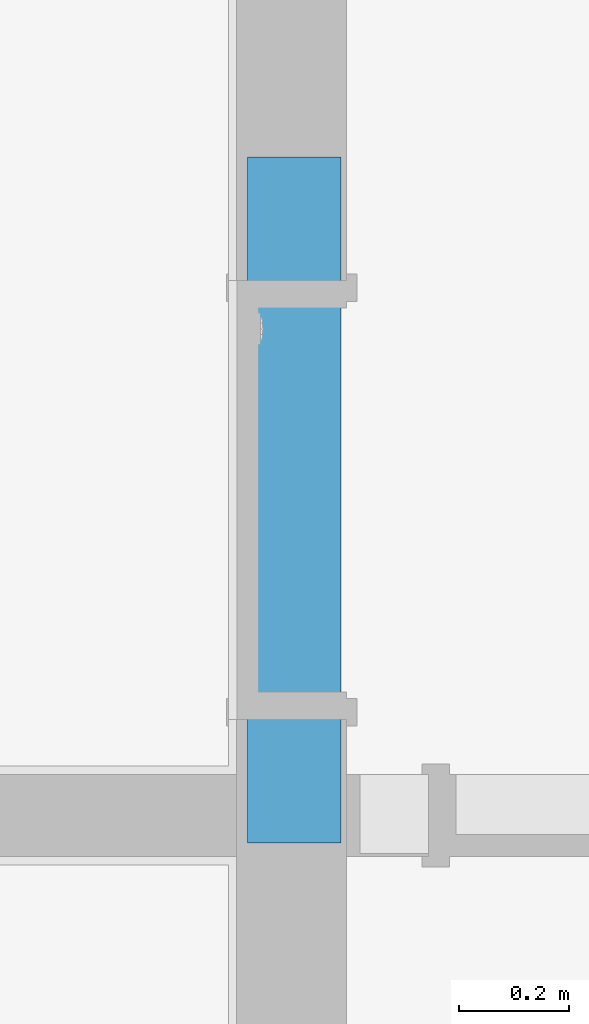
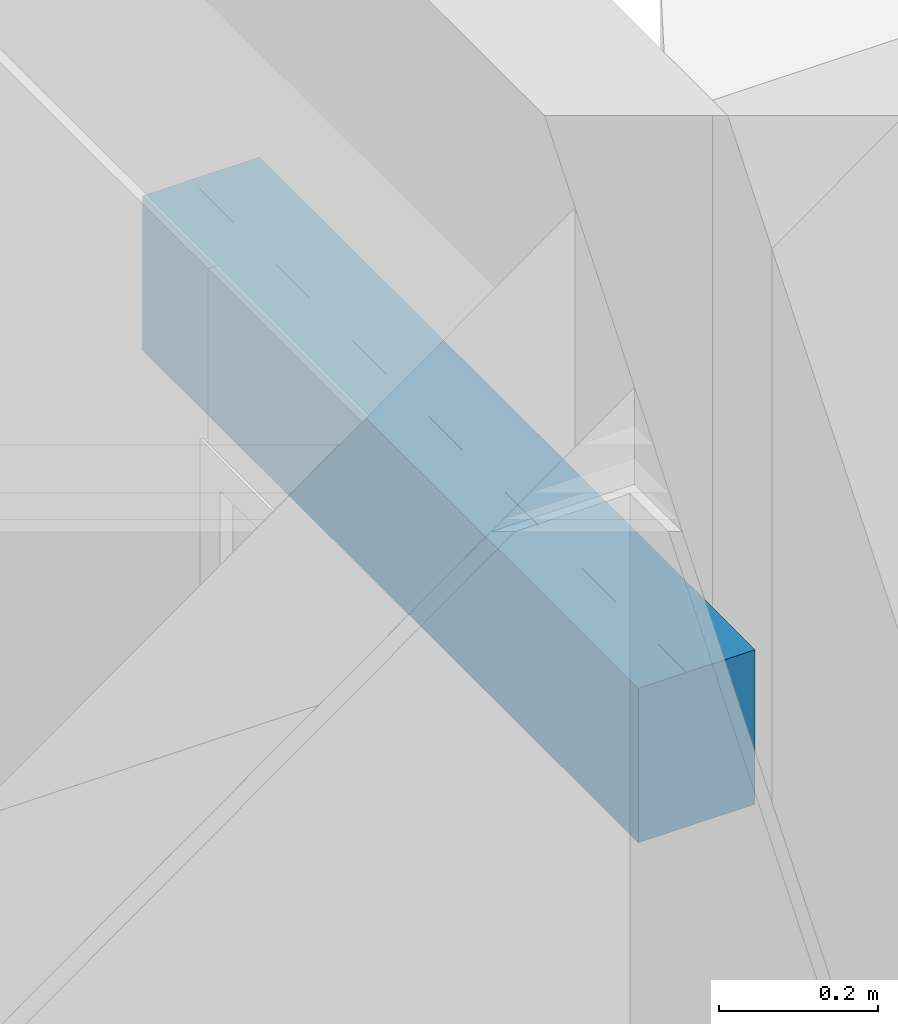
# One storey, part 3 of 21: 1 beam.
"""IFC4 building model written with IfcOpenShell, lengths in millimetres."""

from ifc_helpers import new_model, entity, si_unit, converted_unit, derived_unit, direction, frame, origin_with_axes, place, context, subcontext, project, spatial, polygons, source, transform, mapped, type_object, element, save


model = new_model("IFC4")

# Units and contexts
model_context = context("Model", 3, precision=0.01, world=origin_with_axes(), true_north=direction((0.0, 1.0)))
body_context = subcontext(model_context, "Body", "Model", "MODEL_VIEW")
ifc_project = project(units=[si_unit("LENGTHUNIT", "METRE", prefix="MILLI"), si_unit("AREAUNIT", "SQUARE_METRE"), si_unit("VOLUMEUNIT", "CUBIC_METRE"), converted_unit("PLANEANGLEUNIT", "DEGREE", entity("IfcPlaneAngleMeasure", 0.0174532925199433), si_unit("PLANEANGLEUNIT", "RADIAN"), dimensions=[0, 0, 0, 0, 0, 0, 0]), converted_unit("TIMEUNIT", "Year", entity("IfcTimeMeasure", 31557600.0), si_unit("TIMEUNIT", "SECOND"), dimensions=[0, 0, 1, 0, 0, 0, 0]), si_unit("MASSUNIT", "GRAM", prefix="KILO"), si_unit("THERMODYNAMICTEMPERATUREUNIT", "DEGREE_CELSIUS"), si_unit("LUMINOUSINTENSITYUNIT", "LUMEN"), si_unit("ENERGYUNIT", "JOULE", prefix="MEGA"), derived_unit("THERMALCONDUCTANCEUNIT", [(si_unit("POWERUNIT", "WATT"), 1), (si_unit("LENGTHUNIT", "METRE"), -1), (si_unit("THERMODYNAMICTEMPERATUREUNIT", "KELVIN"), -1)]), derived_unit("SPECIFICHEATCAPACITYUNIT", [(si_unit("ENERGYUNIT", "JOULE"), 1), (si_unit("MASSUNIT", "GRAM", prefix="KILO"), -1), (si_unit("THERMODYNAMICTEMPERATUREUNIT", "KELVIN"), -1)]), derived_unit("MASSDENSITYUNIT", [(si_unit("MASSUNIT", "GRAM", prefix="KILO"), 1), (si_unit("VOLUMEUNIT", "CUBIC_METRE"), -1)])], contexts=[model_context])

# Site, building, storey
site_placement = place(None, origin_with_axes())
site = spatial("IfcSite", under=ifc_project, at=site_placement, Name="Exteriér", CompositionType="ELEMENT")
building_placement = place(site_placement, origin_with_axes())
building = spatial("IfcBuilding", under=site, at=building_placement, Name="Univerzitní lezecké centrum", CompositionType="ELEMENT")
storey_placement = place(building_placement, frame((0.0, 0.0, -3350.0), z_axis=(0.0, 0.0, 1.0), x_axis=(1.0, 0.0, 0.0)))
storey = spatial("IfcBuildingStorey", under=building, at=storey_placement, Name="1.PP", CompositionType="ELEMENT", Elevation=-3350.0)

# Beam
beam_type = type_object("IfcBeamType", Name="PTH Překlad KP7", PredefinedType="BEAM")
shared_shape = source(origin_with_axes(), body_context, "Body", "Tessellation", [
    polygons([(-625.0, 80.0, 0.0), (625.0, 80.0, 0.0), (625.0, 10.00000107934, 0.0), (-625.0, 10.00000107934, 0.0), (-625.0, 79.99999845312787, 17.00000071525), (625.0, 79.99999845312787, 17.00000071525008), (625.0, 30.29999809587, 16.99999709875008), (625.0, 30.29999809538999, 220.9999513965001), (625.0, 79.99999845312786, 220.9999992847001), (625.0, 79.99998239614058, 237.6644796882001), (625.0, 10.00000107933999, 237.6644745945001), (-625.0, 10.00000107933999, 237.6644745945), (-625.0, 79.99998239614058, 237.6644796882), (-625.0, 79.99999845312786, 220.9999992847), (-625.0, 30.29999809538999, 220.9999513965), (-625.0, 30.29999809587, 16.99999709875)], [[[1, 2, 3, 4]], [[5, 6, 2, 1]], [[2, 6, 7, 8, 9, 10, 11, 3]], [[4, 3, 11, 12]], [[1, 4, 12, 13, 14, 15, 16, 5]], [[16, 7, 6, 5]], [[15, 8, 7, 16]], [[14, 9, 8, 15]], [[13, 10, 9, 14]], [[12, 11, 10, 13]]], closed=True),
    polygons([(-625.0, 79.99999845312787, 17.00000071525), (625.0, 79.99999845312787, 17.00000071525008), (625.0, 30.29999809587, 16.99999709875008), (-625.0, 30.29999809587, 16.99999709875), (-625.0, 79.99999845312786, 220.9999992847), (625.0, 79.99999845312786, 220.9999992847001), (625.0, 30.29999809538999, 220.9999513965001), (625.0, 59.29999711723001, 38.99999933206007), (625.0, 59.05527973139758, 37.45491456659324), (625.0, 58.34508221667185, 36.06107346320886), (625.0, 57.23892365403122, 34.95491490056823), (625.0, 55.84508255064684, 34.24471738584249), (625.0, 54.29999778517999, 34.00000000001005), (625.0, 52.75491301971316, 34.24471738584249), (625.0, 51.36107191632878, 34.95491490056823), (625.0, 50.25491335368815, 36.06107346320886), (625.0, 49.54471583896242, 37.45491456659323), (625.0, 49.29999845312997, 38.99999933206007), (625.0, 49.54471583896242, 40.54508409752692), (625.0, 50.25491335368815, 41.93892520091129), (625.0, 51.36107191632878, 43.04508376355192), (625.0, 52.75491301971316, 43.75528127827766), (625.0, 54.29999778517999, 43.99999866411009), (625.0, 55.84508255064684, 43.75528127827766), (625.0, 57.23892365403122, 43.04508376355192), (625.0, 58.34508221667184, 41.93892520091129), (625.0, 59.05527973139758, 40.54508409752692), (625.0, 57.29984198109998, 201.0000022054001), (625.0, 57.10406902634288, 199.7639342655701), (625.0, 56.53591188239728, 198.6488609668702), (625.0, 55.65098572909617, 197.7639334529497), (625.0, 54.53591330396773, 197.1957745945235), (625.0, 53.29984566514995, 196.9999997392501), (625.0, 52.06377772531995, 197.1957726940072), (625.0, 50.94870442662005, 197.7639298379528), (625.0, 50.0637769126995, 198.648855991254), (625.0, 49.49561805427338, 199.7639284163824), (625.0, 49.29984319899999, 200.9999960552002), (625.0, 49.4956161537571, 202.2360639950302), (625.0, 50.0637732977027, 203.3511372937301), (625.0, 50.9486994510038, 204.2360648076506), (625.0, 52.06377187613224, 204.8042236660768), (625.0, 53.29983951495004, 204.9999985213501), (625.0, 54.53590745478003, 204.804225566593), (625.0, 55.65098075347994, 204.2360684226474), (625.0, 56.53590826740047, 203.3511422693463), (625.0, 57.1040671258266, 202.2360698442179), (-625.0, 30.29999809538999, 220.9999513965), (-625.0, 59.29999711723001, 38.99999933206), (-625.0, 59.05527973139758, 40.54508409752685), (-625.0, 58.34508221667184, 41.93892520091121), (-625.0, 57.23892365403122, 43.04508376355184), (-625.0, 55.84508255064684, 43.75528127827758), (-625.0, 54.29999778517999, 43.99999866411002), (-625.0, 52.75491301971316, 43.75528127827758), (-625.0, 51.36107191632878, 43.04508376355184), (-625.0, 50.25491335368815, 41.93892520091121), (-625.0, 49.54471583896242, 40.54508409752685), (-625.0, 49.29999845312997, 38.99999933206), (-625.0, 49.54471583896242, 37.45491456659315), (-625.0, 50.25491335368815, 36.06107346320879), (-625.0, 51.36107191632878, 34.95491490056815), (-625.0, 52.75491301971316, 34.24471738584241), (-625.0, 54.29999778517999, 34.00000000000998), (-625.0, 55.84508255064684, 34.24471738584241), (-625.0, 57.23892365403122, 34.95491490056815), (-625.0, 58.34508221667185, 36.06107346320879), (-625.0, 59.05527973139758, 37.45491456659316), (-625.0, 57.29984198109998, 201.0000022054), (-625.0, 57.1040671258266, 202.2360698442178), (-625.0, 56.53590826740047, 203.3511422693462), (-625.0, 55.65098075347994, 204.2360684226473), (-625.0, 54.53590745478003, 204.8042255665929), (-625.0, 53.29983951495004, 204.9999985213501), (-625.0, 52.06377187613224, 204.8042236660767), (-625.0, 50.9486994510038, 204.2360648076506), (-625.0, 50.0637732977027, 203.35113729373), (-625.0, 49.4956161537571, 202.2360639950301), (-625.0, 49.29984319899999, 200.9999960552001), (-625.0, 49.49561805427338, 199.7639284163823), (-625.0, 50.0637769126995, 198.6488559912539), (-625.0, 50.94870442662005, 197.7639298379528), (-625.0, 52.06377772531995, 197.1957726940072), (-625.0, 53.29984566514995, 196.9999997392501), (-625.0, 54.53591330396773, 197.1957745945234), (-625.0, 55.65098572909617, 197.7639334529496), (-625.0, 56.53591188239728, 198.6488609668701), (-625.0, 57.10406902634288, 199.76393426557)], [[[1, 2, 3, 4]], [[5, 6, 2, 1]], [[2, 6, 7, 3], [8, 9, 10, 11, 12, 13, 14, 15, 16, 17, 18, 19, 20, 21, 22, 23, 24, 25, 26, 27], [28, 29, 30, 31, 32, 33, 34, 35, 36, 37, 38, 39, 40, 41, 42, 43, 44, 45, 46, 47]], [[4, 3, 7, 48]], [[1, 4, 48, 5], [49, 50, 51, 52, 53, 54, 55, 56, 57, 58, 59, 60, 61, 62, 63, 64, 65, 66, 67, 68], [69, 70, 71, 72, 73, 74, 75, 76, 77, 78, 79, 80, 81, 82, 83, 84, 85, 86, 87, 88]], [[48, 7, 6, 5]], [[68, 9, 8, 49]], [[67, 10, 9, 68]], [[66, 11, 10, 67]], [[65, 12, 11, 66]], [[64, 13, 12, 65]], [[63, 14, 13, 64]], [[62, 15, 14, 63]], [[61, 16, 15, 62]], [[60, 17, 16, 61]], [[59, 18, 17, 60]], [[58, 19, 18, 59]], [[57, 20, 19, 58]], [[56, 21, 20, 57]], [[55, 22, 21, 56]], [[54, 23, 22, 55]], [[53, 24, 23, 54]], [[52, 25, 24, 53]], [[51, 26, 25, 52]], [[50, 27, 26, 51]], [[49, 8, 27, 50]], [[88, 29, 28, 69]], [[87, 30, 29, 88]], [[86, 31, 30, 87]], [[85, 32, 31, 86]], [[84, 33, 32, 85]], [[83, 34, 33, 84]], [[82, 35, 34, 83]], [[81, 36, 35, 82]], [[80, 37, 36, 81]], [[79, 38, 37, 80]], [[78, 39, 38, 79]], [[77, 40, 39, 78]], [[76, 41, 40, 77]], [[75, 42, 41, 76]], [[74, 43, 42, 75]], [[73, 44, 43, 74]], [[72, 45, 44, 73]], [[71, 46, 45, 72]], [[70, 47, 46, 71]], [[69, 28, 47, 70]]], closed=True),
    polygons([(-625.0, 59.29999910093, 39.0), (625.0, 59.29999910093, 39.00000000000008), (625.0, 59.05528168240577, 37.45491502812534), (-625.0, 59.05528168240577, 37.45491502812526), (-625.0, 59.05528168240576, 40.54508497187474), (625.0, 59.05528168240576, 40.54508497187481), (625.0, 58.34508407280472, 41.93892626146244), (625.0, 57.23892536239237, 43.04508497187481), (625.0, 55.84508407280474, 43.75528258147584), (625.0, 54.29999910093, 44.00000000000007), (625.0, 52.75491412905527, 43.75528258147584), (625.0, 51.36107283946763, 43.04508497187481), (625.0, 50.25491412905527, 41.93892626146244), (625.0, 49.54471651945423, 40.54508497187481), (625.0, 49.29999910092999, 39.00000000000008), (625.0, 49.54471651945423, 37.45491502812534), (625.0, 50.25491412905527, 36.06107373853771), (625.0, 51.36107283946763, 34.95491502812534), (625.0, 52.75491412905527, 34.2447174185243), (625.0, 54.29999910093, 34.00000000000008), (625.0, 55.84508407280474, 34.2447174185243), (625.0, 57.23892536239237, 34.95491502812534), (625.0, 58.34508407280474, 36.06107373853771), (-625.0, 58.34508407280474, 36.06107373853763), (-625.0, 57.23892536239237, 34.95491502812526), (-625.0, 55.84508407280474, 34.24471741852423), (-625.0, 54.29999910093, 34.0), (-625.0, 52.75491412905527, 34.24471741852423), (-625.0, 51.36107283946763, 34.95491502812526), (-625.0, 50.25491412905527, 36.06107373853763), (-625.0, 49.54471651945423, 37.45491502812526), (-625.0, 49.29999910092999, 39.0), (-625.0, 49.54471651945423, 40.54508497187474), (-625.0, 50.25491412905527, 41.93892626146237), (-625.0, 51.36107283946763, 43.04508497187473), (-625.0, 52.75491412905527, 43.75528258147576), (-625.0, 54.29999910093, 44.0), (-625.0, 55.84508407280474, 43.75528258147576), (-625.0, 57.23892536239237, 43.04508497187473), (-625.0, 58.34508407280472, 41.93892626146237)], [[[1, 2, 3, 4]], [[5, 6, 2, 1]], [[2, 6, 7, 8, 9, 10, 11, 12, 13, 14, 15, 16, 17, 18, 19, 20, 21, 22, 23, 3]], [[4, 3, 23, 24]], [[1, 4, 24, 25, 26, 27, 28, 29, 30, 31, 32, 33, 34, 35, 36, 37, 38, 39, 40, 5]], [[40, 7, 6, 5]], [[39, 8, 7, 40]], [[38, 9, 8, 39]], [[37, 10, 9, 38]], [[36, 11, 10, 37]], [[35, 12, 11, 36]], [[34, 13, 12, 35]], [[33, 14, 13, 34]], [[32, 15, 14, 33]], [[31, 16, 15, 32]], [[30, 17, 16, 31]], [[29, 18, 17, 30]], [[28, 19, 18, 29]], [[27, 20, 19, 28]], [[26, 21, 20, 27]], [[25, 22, 21, 26]], [[24, 23, 22, 25]]], closed=True),
    polygons([(-625.0, 49.29984384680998, 201.0), (625.0, 49.29984384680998, 201.0000000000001), (625.0, 49.49561778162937, 202.2360679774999), (-625.0, 49.49561778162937, 202.2360679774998), (-625.0, 49.49561778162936, 199.7639320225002), (625.0, 49.49561778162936, 199.7639320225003), (625.0, 50.06377586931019, 198.6488589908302), (625.0, 50.94870283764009, 197.7639320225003), (625.0, 52.0637758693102, 197.1957739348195), (625.0, 53.29984384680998, 197.0000000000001), (625.0, 54.53591182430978, 197.1957739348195), (625.0, 55.65098485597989, 197.7639320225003), (625.0, 56.53591182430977, 198.6488589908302), (625.0, 57.1040699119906, 199.7639320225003), (625.0, 57.29984384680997, 201.0000000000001), (625.0, 57.10406991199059, 202.2360679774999), (625.0, 56.53591182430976, 203.35114100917), (625.0, 55.65098485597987, 204.2360679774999), (625.0, 54.53591182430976, 204.8042260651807), (625.0, 53.29984384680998, 205.0000000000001), (625.0, 52.06377586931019, 204.8042260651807), (625.0, 50.94870283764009, 204.2360679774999), (625.0, 50.0637758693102, 203.35114100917), (-625.0, 50.0637758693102, 203.3511410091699), (-625.0, 50.94870283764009, 204.2360679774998), (-625.0, 52.06377586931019, 204.8042260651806), (-625.0, 53.29984384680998, 205.0), (-625.0, 54.53591182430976, 204.8042260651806), (-625.0, 55.65098485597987, 204.2360679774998), (-625.0, 56.53591182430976, 203.3511410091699), (-625.0, 57.10406991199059, 202.2360679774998), (-625.0, 57.29984384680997, 201.0), (-625.0, 57.1040699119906, 199.7639320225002), (-625.0, 56.53591182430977, 198.6488589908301), (-625.0, 55.65098485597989, 197.7639320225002), (-625.0, 54.53591182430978, 197.1957739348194), (-625.0, 53.29984384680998, 197.0), (-625.0, 52.0637758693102, 197.1957739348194), (-625.0, 50.94870283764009, 197.7639320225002), (-625.0, 50.06377586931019, 198.6488589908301)], [[[1, 2, 3, 4]], [[5, 6, 2, 1]], [[2, 6, 7, 8, 9, 10, 11, 12, 13, 14, 15, 16, 17, 18, 19, 20, 21, 22, 23, 3]], [[4, 3, 23, 24]], [[1, 4, 24, 25, 26, 27, 28, 29, 30, 31, 32, 33, 34, 35, 36, 37, 38, 39, 40, 5]], [[40, 7, 6, 5]], [[39, 8, 7, 40]], [[38, 9, 8, 39]], [[37, 10, 9, 38]], [[36, 11, 10, 37]], [[35, 12, 11, 36]], [[34, 13, 12, 35]], [[33, 14, 13, 34]], [[32, 15, 14, 33]], [[31, 16, 15, 32]], [[30, 17, 16, 31]], [[29, 18, 17, 30]], [[28, 19, 18, 29]], [[27, 20, 19, 28]], [[26, 21, 20, 27]], [[25, 22, 21, 26]], [[24, 23, 22, 25]]], closed=True),
    polygons([(-625.0, 80.0, 0.0), (-625.0, 110.0, 0.0), (625.0, 110.0, 0.0), (625.0, 80.0, 0.0), (-625.0, 80.00000000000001, 238.0), (-625.0, 110.0, 238.0), (625.0, 110.0, 238.0000000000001), (625.0, 80.00000000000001, 238.0000000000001)], [[[1, 2, 3, 4]], [[1, 5, 6, 2]], [[2, 6, 7, 3]], [[4, 3, 7, 8]], [[5, 1, 4, 8]], [[6, 5, 8, 7]]], closed=True),
    polygons([(-625.0, 110.0, 0.0), (-625.0, 179.99999892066, 0.0), (625.0, 179.99999892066, 0.0), (625.0, 110.0, 0.0), (-625.0, 110.0000015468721, 17.00000071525), (-625.0, 159.70000190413, 16.99999709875), (-625.0, 159.70000190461, 220.9999513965), (-625.0, 110.0000015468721, 220.9999992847), (-625.0, 110.0000176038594, 237.6644796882), (-625.0, 179.99999892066, 237.6644745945), (625.0, 179.99999892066, 237.6644745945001), (625.0, 110.0000176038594, 237.6644796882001), (625.0, 110.0000015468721, 220.9999992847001), (625.0, 159.70000190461, 220.9999513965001), (625.0, 159.70000190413, 16.99999709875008), (625.0, 110.0000015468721, 17.00000071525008)], [[[1, 2, 3, 4]], [[1, 5, 6, 7, 8, 9, 10, 2]], [[2, 10, 11, 3]], [[4, 3, 11, 12, 13, 14, 15, 16]], [[5, 1, 4, 16]], [[6, 5, 16, 15]], [[7, 6, 15, 14]], [[8, 7, 14, 13]], [[9, 8, 13, 12]], [[10, 9, 12, 11]]], closed=True),
    polygons([(-625.0, 110.0000015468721, 17.00000071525), (-625.0, 159.70000190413, 16.99999709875), (625.0, 159.70000190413, 16.99999709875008), (625.0, 110.0000015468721, 17.00000071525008), (-625.0, 110.0000015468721, 220.9999992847), (-625.0, 159.70000190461, 220.9999513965), (-625.0, 130.70000288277, 38.99999933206), (-625.0, 130.9447202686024, 37.45491456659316), (-625.0, 131.6549177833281, 36.06107346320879), (-625.0, 132.7610763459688, 34.95491490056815), (-625.0, 134.1549174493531, 34.24471738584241), (-625.0, 135.70000221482, 34.00000000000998), (-625.0, 137.2450869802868, 34.24471738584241), (-625.0, 138.6389280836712, 34.95491490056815), (-625.0, 139.7450866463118, 36.06107346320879), (-625.0, 140.4552841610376, 37.45491456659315), (-625.0, 140.70000154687, 38.99999933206), (-625.0, 140.4552841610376, 40.54508409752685), (-625.0, 139.7450866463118, 41.93892520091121), (-625.0, 138.6389280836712, 43.04508376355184), (-625.0, 137.2450869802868, 43.75528127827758), (-625.0, 135.70000221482, 43.99999866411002), (-625.0, 134.1549174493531, 43.75528127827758), (-625.0, 132.7610763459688, 43.04508376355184), (-625.0, 131.6549177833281, 41.93892520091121), (-625.0, 130.9447202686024, 40.54508409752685), (-625.0, 132.7001580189, 201.0000022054), (-625.0, 132.8959309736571, 199.76393426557), (-625.0, 133.4640881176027, 198.6488609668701), (-625.0, 134.3490142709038, 197.7639334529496), (-625.0, 135.4640866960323, 197.1957745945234), (-625.0, 136.7001543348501, 196.9999997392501), (-625.0, 137.9362222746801, 197.1957726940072), (-625.0, 139.0512955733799, 197.7639298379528), (-625.0, 139.9362230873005, 198.6488559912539), (-625.0, 140.5043819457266, 199.7639284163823), (-625.0, 140.700156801, 200.9999960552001), (-625.0, 140.5043838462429, 202.2360639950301), (-625.0, 139.9362267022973, 203.35113729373), (-625.0, 139.0513005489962, 204.2360648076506), (-625.0, 137.9362281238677, 204.8042236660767), (-625.0, 136.70016048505, 204.9999985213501), (-625.0, 135.46409254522, 204.8042255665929), (-625.0, 134.3490192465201, 204.2360684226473), (-625.0, 133.4640917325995, 203.3511422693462), (-625.0, 132.8959328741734, 202.2360698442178), (625.0, 159.70000190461, 220.9999513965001), (625.0, 110.0000015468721, 220.9999992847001), (625.0, 130.70000288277, 38.99999933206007), (625.0, 130.9447202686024, 40.54508409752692), (625.0, 131.6549177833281, 41.93892520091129), (625.0, 132.7610763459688, 43.04508376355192), (625.0, 134.1549174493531, 43.75528127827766), (625.0, 135.70000221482, 43.99999866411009), (625.0, 137.2450869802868, 43.75528127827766), (625.0, 138.6389280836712, 43.04508376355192), (625.0, 139.7450866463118, 41.93892520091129), (625.0, 140.4552841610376, 40.54508409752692), (625.0, 140.70000154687, 38.99999933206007), (625.0, 140.4552841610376, 37.45491456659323), (625.0, 139.7450866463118, 36.06107346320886), (625.0, 138.6389280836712, 34.95491490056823), (625.0, 137.2450869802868, 34.24471738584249), (625.0, 135.70000221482, 34.00000000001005), (625.0, 134.1549174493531, 34.24471738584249), (625.0, 132.7610763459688, 34.95491490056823), (625.0, 131.6549177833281, 36.06107346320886), (625.0, 130.9447202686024, 37.45491456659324), (625.0, 132.7001580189, 201.0000022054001), (625.0, 132.8959328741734, 202.2360698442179), (625.0, 133.4640917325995, 203.3511422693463), (625.0, 134.3490192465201, 204.2360684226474), (625.0, 135.46409254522, 204.804225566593), (625.0, 136.70016048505, 204.9999985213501), (625.0, 137.9362281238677, 204.8042236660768), (625.0, 139.0513005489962, 204.2360648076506), (625.0, 139.9362267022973, 203.3511372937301), (625.0, 140.5043838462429, 202.2360639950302), (625.0, 140.700156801, 200.9999960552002), (625.0, 140.5043819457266, 199.7639284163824), (625.0, 139.9362230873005, 198.648855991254), (625.0, 139.0512955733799, 197.7639298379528), (625.0, 137.9362222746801, 197.1957726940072), (625.0, 136.7001543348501, 196.9999997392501), (625.0, 135.4640866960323, 197.1957745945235), (625.0, 134.3490142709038, 197.7639334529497), (625.0, 133.4640881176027, 198.6488609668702), (625.0, 132.8959309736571, 199.7639342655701)], [[[1, 2, 3, 4]], [[1, 5, 6, 2], [7, 8, 9, 10, 11, 12, 13, 14, 15, 16, 17, 18, 19, 20, 21, 22, 23, 24, 25, 26], [27, 28, 29, 30, 31, 32, 33, 34, 35, 36, 37, 38, 39, 40, 41, 42, 43, 44, 45, 46]], [[2, 6, 47, 3]], [[4, 3, 47, 48], [49, 50, 51, 52, 53, 54, 55, 56, 57, 58, 59, 60, 61, 62, 63, 64, 65, 66, 67, 68], [69, 70, 71, 72, 73, 74, 75, 76, 77, 78, 79, 80, 81, 82, 83, 84, 85, 86, 87, 88]], [[5, 1, 4, 48]], [[6, 5, 48, 47]], [[8, 7, 49, 68]], [[9, 8, 68, 67]], [[10, 9, 67, 66]], [[11, 10, 66, 65]], [[12, 11, 65, 64]], [[13, 12, 64, 63]], [[14, 13, 63, 62]], [[15, 14, 62, 61]], [[16, 15, 61, 60]], [[17, 16, 60, 59]], [[18, 17, 59, 58]], [[19, 18, 58, 57]], [[20, 19, 57, 56]], [[21, 20, 56, 55]], [[22, 21, 55, 54]], [[23, 22, 54, 53]], [[24, 23, 53, 52]], [[25, 24, 52, 51]], [[26, 25, 51, 50]], [[7, 26, 50, 49]], [[28, 27, 69, 88]], [[29, 28, 88, 87]], [[30, 29, 87, 86]], [[31, 30, 86, 85]], [[32, 31, 85, 84]], [[33, 32, 84, 83]], [[34, 33, 83, 82]], [[35, 34, 82, 81]], [[36, 35, 81, 80]], [[37, 36, 80, 79]], [[38, 37, 79, 78]], [[39, 38, 78, 77]], [[40, 39, 77, 76]], [[41, 40, 76, 75]], [[42, 41, 75, 74]], [[43, 42, 74, 73]], [[44, 43, 73, 72]], [[45, 44, 72, 71]], [[46, 45, 71, 70]], [[27, 46, 70, 69]]], closed=True),
    polygons([(-625.0, 130.70000089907, 39.0), (-625.0, 130.9447183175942, 37.45491502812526), (625.0, 130.9447183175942, 37.45491502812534), (625.0, 130.70000089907, 39.00000000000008), (-625.0, 130.9447183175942, 40.54508497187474), (-625.0, 131.6549159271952, 41.93892626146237), (-625.0, 132.7610746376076, 43.04508497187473), (-625.0, 134.1549159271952, 43.75528258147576), (-625.0, 135.70000089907, 44.0), (-625.0, 137.2450858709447, 43.75528258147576), (-625.0, 138.6389271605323, 43.04508497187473), (-625.0, 139.7450858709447, 41.93892626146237), (-625.0, 140.4552834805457, 40.54508497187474), (-625.0, 140.70000089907, 39.0), (-625.0, 140.4552834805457, 37.45491502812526), (-625.0, 139.7450858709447, 36.06107373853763), (-625.0, 138.6389271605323, 34.95491502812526), (-625.0, 137.2450858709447, 34.24471741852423), (-625.0, 135.70000089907, 34.0), (-625.0, 134.1549159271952, 34.24471741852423), (-625.0, 132.7610746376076, 34.95491502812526), (-625.0, 131.6549159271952, 36.06107373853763), (625.0, 131.6549159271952, 36.06107373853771), (625.0, 132.7610746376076, 34.95491502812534), (625.0, 134.1549159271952, 34.2447174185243), (625.0, 135.70000089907, 34.00000000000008), (625.0, 137.2450858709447, 34.2447174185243), (625.0, 138.6389271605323, 34.95491502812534), (625.0, 139.7450858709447, 36.06107373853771), (625.0, 140.4552834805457, 37.45491502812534), (625.0, 140.70000089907, 39.00000000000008), (625.0, 140.4552834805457, 40.54508497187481), (625.0, 139.7450858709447, 41.93892626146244), (625.0, 138.6389271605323, 43.04508497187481), (625.0, 137.2450858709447, 43.75528258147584), (625.0, 135.70000089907, 44.00000000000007), (625.0, 134.1549159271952, 43.75528258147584), (625.0, 132.7610746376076, 43.04508497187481), (625.0, 131.6549159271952, 41.93892626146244), (625.0, 130.9447183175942, 40.54508497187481)], [[[1, 2, 3, 4]], [[1, 5, 6, 7, 8, 9, 10, 11, 12, 13, 14, 15, 16, 17, 18, 19, 20, 21, 22, 2]], [[2, 22, 23, 3]], [[4, 3, 23, 24, 25, 26, 27, 28, 29, 30, 31, 32, 33, 34, 35, 36, 37, 38, 39, 40]], [[5, 1, 4, 40]], [[6, 5, 40, 39]], [[7, 6, 39, 38]], [[8, 7, 38, 37]], [[9, 8, 37, 36]], [[10, 9, 36, 35]], [[11, 10, 35, 34]], [[12, 11, 34, 33]], [[13, 12, 33, 32]], [[14, 13, 32, 31]], [[15, 14, 31, 30]], [[16, 15, 30, 29]], [[17, 16, 29, 28]], [[18, 17, 28, 27]], [[19, 18, 27, 26]], [[20, 19, 26, 25]], [[21, 20, 25, 24]], [[22, 21, 24, 23]]], closed=True),
    polygons([(-625.0, 140.70015615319, 201.0), (-625.0, 140.5043822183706, 202.2360679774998), (625.0, 140.5043822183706, 202.2360679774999), (625.0, 140.70015615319, 201.0000000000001), (-625.0, 140.5043822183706, 199.7639320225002), (-625.0, 139.9362241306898, 198.6488589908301), (-625.0, 139.0512971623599, 197.7639320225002), (-625.0, 137.9362241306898, 197.1957739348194), (-625.0, 136.70015615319, 197.0), (-625.0, 135.4640881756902, 197.1957739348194), (-625.0, 134.3490151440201, 197.7639320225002), (-625.0, 133.4640881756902, 198.6488589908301), (-625.0, 132.8959300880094, 199.7639320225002), (-625.0, 132.70015615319, 201.0), (-625.0, 132.8959300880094, 202.2360679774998), (-625.0, 133.4640881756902, 203.3511410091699), (-625.0, 134.3490151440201, 204.2360679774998), (-625.0, 135.4640881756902, 204.8042260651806), (-625.0, 136.70015615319, 205.0), (-625.0, 137.9362241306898, 204.8042260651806), (-625.0, 139.0512971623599, 204.2360679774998), (-625.0, 139.9362241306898, 203.3511410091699), (625.0, 139.9362241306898, 203.35114100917), (625.0, 139.0512971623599, 204.2360679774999), (625.0, 137.9362241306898, 204.8042260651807), (625.0, 136.70015615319, 205.0000000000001), (625.0, 135.4640881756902, 204.8042260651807), (625.0, 134.3490151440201, 204.2360679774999), (625.0, 133.4640881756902, 203.35114100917), (625.0, 132.8959300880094, 202.2360679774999), (625.0, 132.70015615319, 201.0000000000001), (625.0, 132.8959300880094, 199.7639320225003), (625.0, 133.4640881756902, 198.6488589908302), (625.0, 134.3490151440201, 197.7639320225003), (625.0, 135.4640881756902, 197.1957739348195), (625.0, 136.70015615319, 197.0000000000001), (625.0, 137.9362241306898, 197.1957739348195), (625.0, 139.0512971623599, 197.7639320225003), (625.0, 139.9362241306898, 198.6488589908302), (625.0, 140.5043822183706, 199.7639320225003)], [[[1, 2, 3, 4]], [[1, 5, 6, 7, 8, 9, 10, 11, 12, 13, 14, 15, 16, 17, 18, 19, 20, 21, 22, 2]], [[2, 22, 23, 3]], [[4, 3, 23, 24, 25, 26, 27, 28, 29, 30, 31, 32, 33, 34, 35, 36, 37, 38, 39, 40]], [[5, 1, 4, 40]], [[6, 5, 40, 39]], [[7, 6, 39, 38]], [[8, 7, 38, 37]], [[9, 8, 37, 36]], [[10, 9, 36, 35]], [[11, 10, 35, 34]], [[12, 11, 34, 33]], [[13, 12, 33, 32]], [[14, 13, 32, 31]], [[15, 14, 31, 30]], [[16, 15, 30, 29]], [[17, 16, 29, 28]], [[18, 17, 28, 27]], [[19, 18, 27, 26]], [[20, 19, 26, 25]], [[21, 20, 25, 24]], [[22, 21, 24, 23]]], closed=True),
])
beam_placement = place(storey_placement, frame((-1950.408868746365, 1450.0, 2026.0), z_axis=(0.0, 0.0, 1.0), x_axis=(0.0, 1.0, 0.0)))
element("IfcBeam", 1, at=beam_placement, inside=storey, type_object=beam_type, Name="Pk03", PredefinedType="BEAM", context=body_context, shape_type="MappedRepresentation", body=[
    mapped(shared_shape, transform((0.0, 0.0, 0.0))),
])

save(model, "model.ifc")
